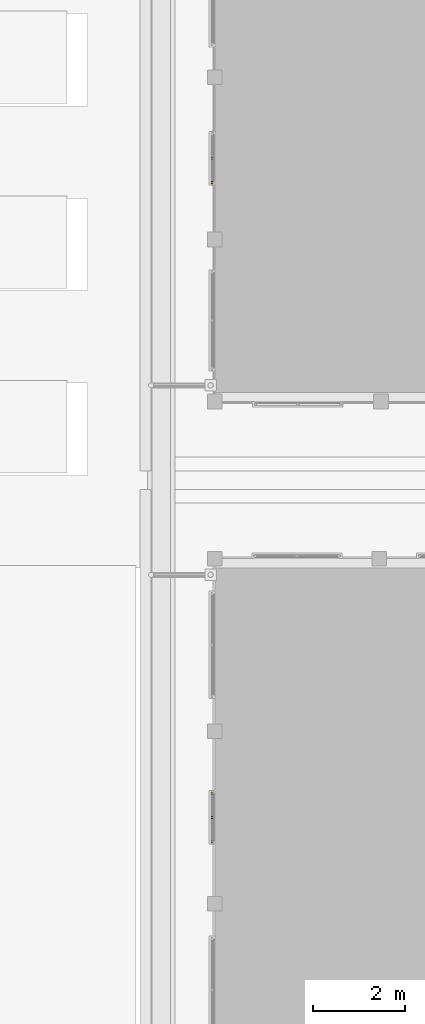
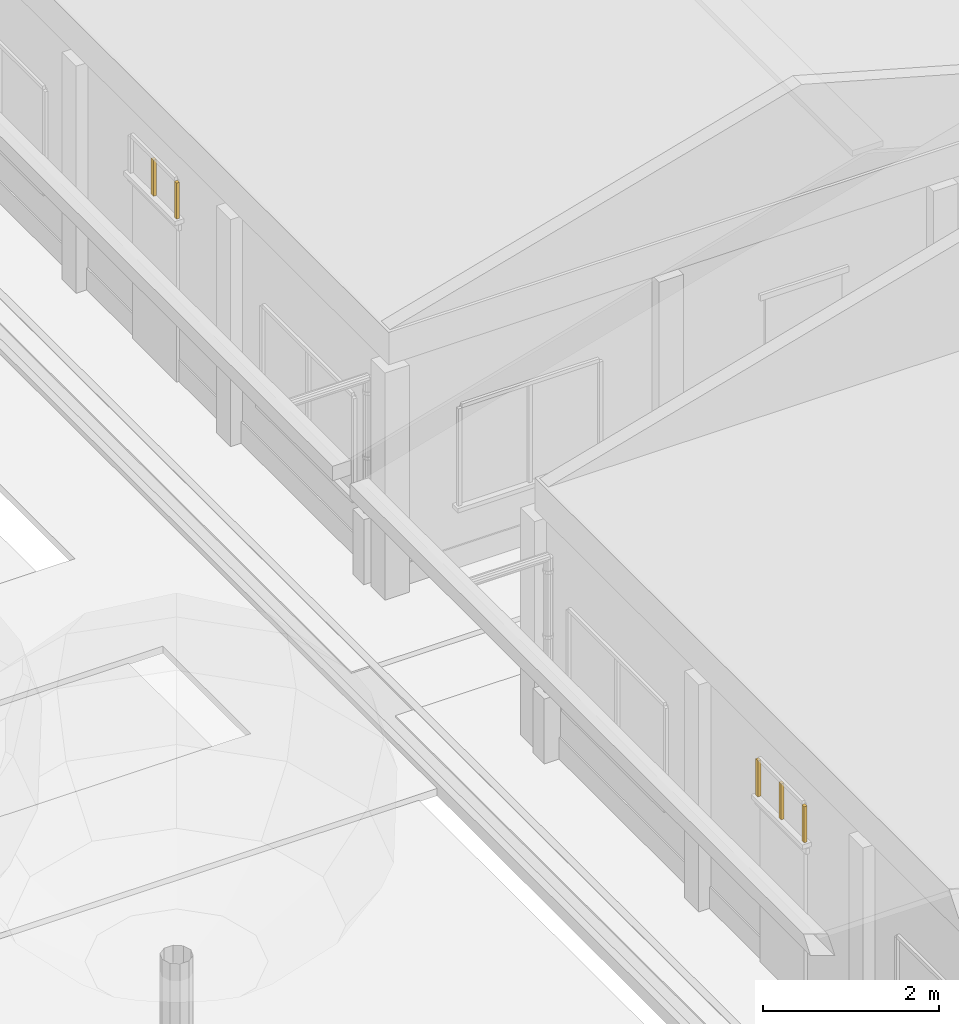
# One storey, part 78 of 177: 5 windows.
"""IFC4 building model written with IfcOpenShell, lengths in metres."""

from ifc_helpers import new_model, si_unit, origin, origin_with_axes, place, context, subcontext, project, spatial, triangles, element, save


model = new_model("IFC4")

# Units and contexts
model_context = context("Model", 3, precision=1e-05, world=origin_with_axes())
body_context = subcontext(model_context, "Body", "Model", "MODEL_VIEW")
ifc_project = project(units=[si_unit("LENGTHUNIT", "METRE"), si_unit("AREAUNIT", "SQUARE_METRE"), si_unit("VOLUMEUNIT", "CUBIC_METRE"), si_unit("PLANEANGLEUNIT", "RADIAN")], contexts=[model_context])

# Site, building, storey
site_placement = place(None, origin_with_axes())
site = spatial("IfcSite", under=ifc_project, at=site_placement, Name="Predio Los Mangos - Morales, San Martín", CompositionType="ELEMENT")
building_placement = place(site_placement, origin())
building = spatial("IfcBuilding", under=site, at=building_placement, Name="Hogar de Refugio Temporal", CompositionType="ELEMENT")
storey_placement = place(building_placement, origin())
storey = spatial("IfcBuildingStorey", under=building, at=storey_placement, Name="NIVEL 1 (NPT +0.00)", CompositionType="ELEMENT", Elevation=0.0)

# Windows
window_1_placement = place(storey_placement, origin())
element("IfcWindow", 1, at=window_1_placement, inside=storey, Name="E-01_vt4_m", ObjectType="Ventana", PredefinedType="WINDOW", context=body_context, shape_type="Tessellation", body=[
    triangles([(13.72, 42.55, 2.45), (13.76, 42.55, 2.45), (13.76, 42.6, 2.45), (13.72, 42.6, 2.45), (13.72, 42.55, 2.95), (13.76, 42.55, 2.95), (13.76, 42.6, 2.95), (13.72, 42.6, 2.95)], [[1, 4, 3], [1, 3, 2], [5, 6, 7], [5, 7, 8], [1, 2, 6], [1, 6, 5], [2, 3, 7], [2, 7, 6], [3, 4, 8], [3, 8, 7], [4, 1, 5], [4, 5, 8]]),
])
window_2_placement = place(storey_placement, origin())
element("IfcWindow", 2, at=window_2_placement, inside=storey, Name="E-01_vt4_m", ObjectType="Ventana", PredefinedType="WINDOW", context=body_context, shape_type="Tessellation", body=[
    triangles([(13.72, 43.6, 2.45), (13.76, 43.6, 2.45), (13.76, 43.65, 2.45), (13.72, 43.65, 2.45), (13.72, 43.6, 2.95), (13.76, 43.6, 2.95), (13.76, 43.65, 2.95), (13.72, 43.65, 2.95)], [[1, 4, 3], [1, 3, 2], [5, 6, 7], [5, 7, 8], [1, 2, 6], [1, 6, 5], [2, 3, 7], [2, 7, 6], [3, 4, 8], [3, 8, 7], [4, 1, 5], [4, 5, 8]]),
])
window_3_placement = place(storey_placement, origin())
element("IfcWindow", 3, at=window_3_placement, inside=storey, Name="E-01_vt4_m", ObjectType="Ventana", PredefinedType="WINDOW", context=body_context, shape_type="Tessellation", body=[
    triangles([(13.72, 43.075, 2.45), (13.76, 43.075, 2.45), (13.76, 43.125, 2.45), (13.72, 43.125, 2.45), (13.72, 43.075, 2.95), (13.76, 43.075, 2.95), (13.76, 43.125, 2.95), (13.72, 43.125, 2.95)], [[1, 4, 3], [1, 3, 2], [5, 6, 7], [5, 7, 8], [1, 2, 6], [1, 6, 5], [2, 3, 7], [2, 7, 6], [3, 4, 8], [3, 8, 7], [4, 1, 5], [4, 5, 8]]),
])
window_4_placement = place(storey_placement, origin())
element("IfcWindow", 4, at=window_4_placement, inside=storey, Name="E-04_vt1_m", ObjectType="Ventana", PredefinedType="WINDOW", context=body_context, shape_type="Tessellation", body=[
    triangles([(13.72, 56.815, 2.45), (13.76, 56.815, 2.45), (13.76, 56.865, 2.45), (13.72, 56.865, 2.45), (13.72, 56.815, 2.95), (13.76, 56.815, 2.95), (13.76, 56.865, 2.95), (13.72, 56.865, 2.95)], [[1, 4, 3], [1, 3, 2], [5, 6, 7], [5, 7, 8], [1, 2, 6], [1, 6, 5], [2, 3, 7], [2, 7, 6], [3, 4, 8], [3, 8, 7], [4, 1, 5], [4, 5, 8]]),
])
window_5_placement = place(storey_placement, origin())
element("IfcWindow", 5, at=window_5_placement, inside=storey, Name="E-04_vt1_m", ObjectType="Ventana", PredefinedType="WINDOW", context=body_context, shape_type="Tessellation", body=[
    triangles([(13.72, 57.34, 2.45), (13.76, 57.34, 2.45), (13.76, 57.39, 2.45), (13.72, 57.39, 2.45), (13.72, 57.34, 2.95), (13.76, 57.34, 2.95), (13.76, 57.39, 2.95), (13.72, 57.39, 2.95)], [[1, 4, 3], [1, 3, 2], [5, 6, 7], [5, 7, 8], [1, 2, 6], [1, 6, 5], [2, 3, 7], [2, 7, 6], [3, 4, 8], [3, 8, 7], [4, 1, 5], [4, 5, 8]]),
])

save(model, "model.ifc")
